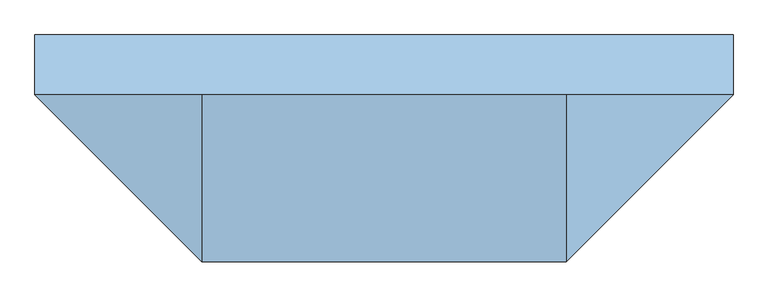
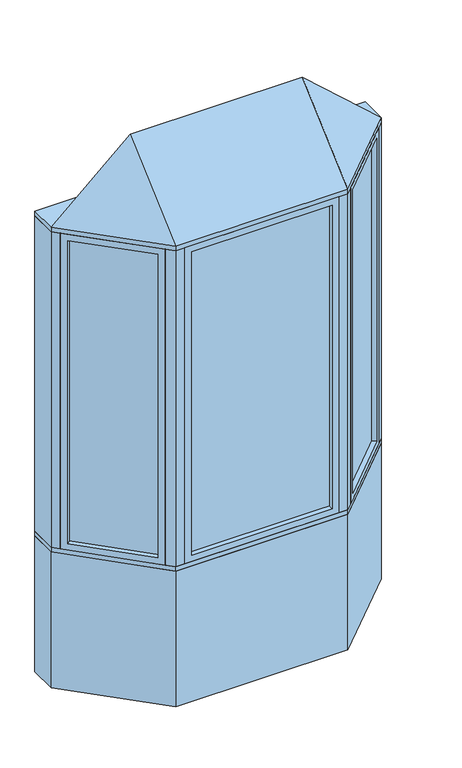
"""IFC4 building model written with IfcOpenShell, lengths in millimetres: window geometry, Pollard_Windows_Tudor Casement Bows and Bays : AML-BAY 45 AFR0518-08-500."""

from ifc_helpers import new_model, si_unit, frame, origin, origin_with_axes, place, context, project, spatial, polyline, outline, extrude, faceted_brep, source, transform, mapped, element, save


def window_3bc9b1b7(model_context):
    return source(origin(), model_context, "Body", "SolidModel", [
        extrude(outline(polyline([(824.0964271, -104.763169), (498.324814, -430.5347822), (494.7327115, -426.9426797), (820.5043247, -101.1710666), (824.0964271, -104.763169)])), frame((0.0, 0.0, 823.1628), z_axis=(0.0, 0.0, 1.0), x_axis=(1.0, 0.0, 0.0)), (0.0, 0.0, 1.0), 1753.6704),
        faceted_brep([(815.116171, -113.7434252, 835.8628), (833.0766833, -131.7039374, 835.8628), (833.0766833, -131.7039374, 2564.1332), (815.116171, -113.7434252, 2564.1332), (820.5043247, -101.1710666, 823.1628), (824.0964271, -104.763169, 823.1628), (824.0964271, -104.763169, 2576.8332), (820.5043247, -101.1710666, 2576.8332), (793.5635563, -92.1908105, 835.8628), (811.5240686, -110.1513227, 835.8628), (811.5240686, -110.1513227, 2564.1332), (793.5635563, -92.1908105, 2564.1332), (858.4369265, -106.3436941, 799.998), (818.9237996, -66.8305672, 799.998), (818.9237996, -66.8305672, 2599.998), (858.4369265, -106.3436941, 2599.998), (525.2655823, -439.5150383, 2564.1332), (507.3050701, -421.5545261, 2564.1332), (498.324814, -430.5347822, 2576.8332), (494.7327115, -426.9426797, 2576.8332), (503.7129677, -417.9624236, 2564.1332), (485.7524554, -400.0019114, 2564.1332), (460.3922121, -425.3621547, 2599.998), (499.9053391, -464.8752816, 2599.998), (525.2655823, -439.5150383, 835.8628), (507.3050701, -421.5545261, 835.8628), (498.324814, -430.5347822, 823.1628), (494.7327115, -426.9426797, 823.1628), (503.7129677, -417.9624236, 835.8628), (485.7524554, -400.0019114, 835.8628), (460.3922121, -425.3621547, 799.998), (499.9053391, -464.8752816, 799.998)], [[[0, 1, 2, 3]], [[4, 5, 6, 7]], [[8, 9, 10, 11]], [[12, 13, 14, 15]], [[3, 2, 16, 17]], [[7, 6, 18, 19]], [[11, 10, 20, 21]], [[15, 14, 22, 23]], [[17, 16, 24, 25]], [[19, 18, 26, 27]], [[21, 20, 28, 29]], [[23, 22, 30, 31]], [[25, 24, 1, 0]], [[5, 26, 18, 6], [3, 17, 25, 0]], [[27, 26, 5, 4]], [[7, 19, 27, 4], [9, 28, 20, 10]], [[29, 28, 9, 8]], [[13, 30, 22, 14], [11, 21, 29, 8]], [[31, 30, 13, 12]], [[15, 23, 31, 12], [1, 24, 16, 2]]]),
        extrude(outline(polyline([(-498.324814, -430.5347822), (-824.0964271, -104.763169), (-820.5043247, -101.1710666), (-494.7327115, -426.9426797), (-498.324814, -430.5347822)])), frame((0.0, 0.0, 823.1628), z_axis=(0.0, 0.0, 1.0), x_axis=(1.0, 0.0, 0.0)), (0.0, 0.0, 1.0), 1753.6704),
        faceted_brep([(-503.7129677, -417.9624236, 2564.1332), (-485.7524554, -400.0019114, 2564.1332), (-485.7524554, -400.0019114, 835.8628), (-503.7129677, -417.9624236, 835.8628), (-498.324814, -430.5347822, 2576.8332), (-494.7327115, -426.9426797, 2576.8332), (-494.7327115, -426.9426797, 823.1628), (-498.324814, -430.5347822, 823.1628), (-525.2655823, -439.5150383, 2564.1332), (-507.3050701, -421.5545261, 2564.1332), (-507.3050701, -421.5545261, 835.8628), (-525.2655823, -439.5150383, 835.8628), (-460.3922121, -425.3621547, 2599.998), (-499.9053391, -464.8752816, 2599.998), (-499.9053391, -464.8752816, 799.998), (-460.3922121, -425.3621547, 799.998), (-793.5635563, -92.1908105, 835.8628), (-811.5240686, -110.1513227, 835.8628), (-820.5043247, -101.1710666, 823.1628), (-824.0964271, -104.763169, 823.1628), (-815.116171, -113.7434252, 835.8628), (-833.0766833, -131.7039374, 835.8628), (-858.4369265, -106.3436941, 799.998), (-818.9237996, -66.8305672, 799.998), (-793.5635563, -92.1908105, 2564.1332), (-811.5240686, -110.1513227, 2564.1332), (-820.5043247, -101.1710666, 2576.8332), (-824.0964271, -104.763169, 2576.8332), (-815.116171, -113.7434252, 2564.1332), (-833.0766833, -131.7039374, 2564.1332), (-858.4369265, -106.3436941, 2599.998), (-818.9237996, -66.8305672, 2599.998)], [[[0, 1, 2, 3]], [[4, 5, 6, 7]], [[8, 9, 10, 11]], [[12, 13, 14, 15]], [[3, 2, 16, 17]], [[7, 6, 18, 19]], [[11, 10, 20, 21]], [[15, 14, 22, 23]], [[17, 16, 24, 25]], [[19, 18, 26, 27]], [[21, 20, 28, 29]], [[23, 22, 30, 31]], [[15, 23, 31, 12], [1, 24, 16, 2]], [[25, 24, 1, 0]], [[5, 26, 18, 6], [3, 17, 25, 0]], [[27, 26, 5, 4]], [[7, 19, 27, 4], [9, 28, 20, 10]], [[29, 28, 9, 8]], [[13, 30, 22, 14], [11, 21, 29, 8]], [[31, 30, 13, 12]]]),
        extrude(outline(polyline([(391.3852, -474.8306207), (-391.3852, -474.8306207), (-391.3852, -469.7506207), (391.3852, -469.7506207), (391.3852, -474.8306207)])), frame((0.0, 0.0, 823.1628), z_axis=(0.0, 0.0, 1.0), x_axis=(1.0, 0.0, 0.0)), (0.0, 0.0, 1.0), 1753.6704),
        faceted_brep([(378.6852, -474.8306207, 835.8628), (378.6852, -500.2306207, 835.8628), (378.6852, -500.2306207, 2564.1332), (378.6852, -474.8306207, 2564.1332), (391.3852, -469.7506207, 823.1628), (391.3852, -474.8306207, 823.1628), (391.3852, -474.8306207, 2576.8332), (391.3852, -469.7506207, 2576.8332), (378.6852, -444.3506207, 835.8628), (378.6852, -469.7506207, 835.8628), (378.6852, -469.7506207, 2564.1332), (378.6852, -444.3506207, 2564.1332), (414.55, -500.2306207, 799.998), (414.55, -444.3506207, 799.998), (414.55, -444.3506207, 2599.998), (414.55, -500.2306207, 2599.998), (-378.6852, -500.2306207, 2564.1332), (-378.6852, -474.8306207, 2564.1332), (-391.3852, -474.8306207, 2576.8332), (-391.3852, -469.7506207, 2576.8332), (-378.6852, -469.7506207, 2564.1332), (-378.6852, -444.3506207, 2564.1332), (-414.55, -444.3506207, 2599.998), (-414.55, -500.2306207, 2599.998), (-378.6852, -500.2306207, 835.8628), (-378.6852, -474.8306207, 835.8628), (-391.3852, -474.8306207, 823.1628), (-391.3852, -469.7506207, 823.1628), (-378.6852, -469.7506207, 835.8628), (-378.6852, -444.3506207, 835.8628), (-414.55, -444.3506207, 799.998), (-414.55, -500.2306207, 799.998)], [[[0, 1, 2, 3]], [[4, 5, 6, 7]], [[8, 9, 10, 11]], [[12, 13, 14, 15]], [[3, 2, 16, 17]], [[7, 6, 18, 19]], [[11, 10, 20, 21]], [[15, 14, 22, 23]], [[17, 16, 24, 25]], [[19, 18, 26, 27]], [[21, 20, 28, 29]], [[23, 22, 30, 31]], [[15, 23, 31, 12], [1, 24, 16, 2]], [[25, 24, 1, 0]], [[5, 26, 18, 6], [3, 17, 25, 0]], [[27, 26, 5, 4]], [[7, 19, 27, 4], [9, 28, 20, 10]], [[29, 28, 9, 8]], [[13, 30, 22, 14], [11, 21, 29, 8]], [[31, 30, 13, 12]]]),
        faceted_brep([(890.0, -74.7806207, 2625.398), (464.55, -500.2306207, 2625.398), (-464.55, -500.2306207, 2625.398), (-890.0, -74.7806207, 2625.398), (-464.55, -74.7806207, 3006.398), (464.55, -74.7806207, 3006.398)], [[[0, 1, 2, 3]], [[3, 2, 4]], [[2, 1, 5, 4]], [[1, 0, 5]], [[0, 3, 4, 5]]]),
        extrude(outline(polyline([(-890.0, 77.6193793), (890.0, 77.6193793), (890.0, -74.7806207), (464.55, -500.2306207), (-464.55, -500.2306207), (-890.0, -74.7806207), (-890.0, 77.6193793)])), frame((0.0, 0.0, 2599.998), z_axis=(0.0, 0.0, 1.0), x_axis=(1.0, 0.0, 0.0)), (0.0, 0.0, 1.0), 25.4),
        extrude(outline(polyline([(-890.0, -74.7806207), (-890.0, 77.6193793), (-826.8738531, 77.6193793), (-826.8738531, -74.7806207), (-858.4369265, -106.3436941), (-890.0, -74.7806207)])), frame((0.0, 0.0, 799.998), z_axis=(0.0, 0.0, 1.0), x_axis=(1.0, 0.0, 0.0)), (0.0, 0.0, 1.0), 1800.0),
        extrude(outline(polyline([(890.0, 77.6193793), (890.0, -74.7806207), (858.4369265, -106.3436941), (826.8738531, -74.7806207), (826.8738531, 77.6193793), (890.0, 77.6193793)])), frame((0.0, 0.0, 799.998), z_axis=(0.0, 0.0, 1.0), x_axis=(1.0, 0.0, 0.0)), (0.0, 0.0, 1.0), 1800.0),
        extrude(outline(polyline([(464.55, -500.2306207), (414.55, -500.2306207), (414.55, -450.2306207), (443.8393219, -450.2306207), (464.55, -429.5199425), (499.9053391, -464.8752816), (464.55, -500.2306207)])), frame((0.0, 0.0, 799.998), z_axis=(0.0, 0.0, 1.0), x_axis=(1.0, 0.0, 0.0)), (0.0, 0.0, 1.0), 1800.0),
        extrude(outline(polyline([(-464.55, -500.2306207), (-499.9053391, -464.8752816), (-464.55, -429.5199425), (-443.8393219, -450.2306207), (-414.55, -450.2306207), (-414.55, -500.2306207), (-464.55, -500.2306207)])), frame((0.0, 0.0, 799.998), z_axis=(0.0, 0.0, 1.0), x_axis=(1.0, 0.0, 0.0)), (0.0, 0.0, 1.0), 1800.0),
        extrude(outline(polyline([(-464.55, -500.2306207), (-890.0, -74.7806207), (-890.0, 77.6193793), (-826.8738531, 77.6193793), (-401.4238531, -347.8306207), (401.4238531, -347.8306207), (826.8738531, 77.6193793), (890.0, 77.6193793), (890.0, -74.7806207), (464.55, -500.2306207), (-464.55, -500.2306207)])), frame((0.0, 0.0, 774.598), z_axis=(0.0, 0.0, 1.0), x_axis=(1.0, 0.0, 0.0)), (0.0, 0.0, 1.0), 25.4),
        extrude(outline(polyline([(-890.0, -74.7806207), (-890.0, 77.6193793), (-826.8738531, 77.6193793), (-401.4238531, -347.8306207), (401.4238531, -347.8306207), (826.8738531, 77.6193793), (890.0, 77.6193793), (890.0, -74.7806207), (464.55, -500.2306207), (-464.55, -500.2306207), (-890.0, -74.7806207)])), origin_with_axes(), (0.0, 0.0, 1.0), 774.598),
    ])


if __name__ == "__main__":
    model = new_model("IFC4")
    model_context = context("Model", 3, world=origin())
    ifc_project = project(units=[si_unit("LENGTHUNIT", "METRE", prefix="MILLI")], contexts=[model_context])
    site = spatial("IfcSite", under=ifc_project)
    building = spatial("IfcBuilding", under=site)
    placement = place(None, origin())
    window_shape = window_3bc9b1b7(model_context)
    element("IfcWindow", 1, ObjectType="Pollard_Windows_Tudor Casement Bows and Bays : AML-BAY 45 AFR0518-08-500", at=placement, inside=building, context=model_context, shape_type="MappedRepresentation", body=[
        mapped(window_shape, transform((0.0, 0.0, 0.0), x_axis=(1.0, 0.0, 0.0), y_axis=(0.0, 1.0, 0.0), z_axis=(0.0, 0.0, 1.0))),
    ])
    save(model, "model.ifc")
